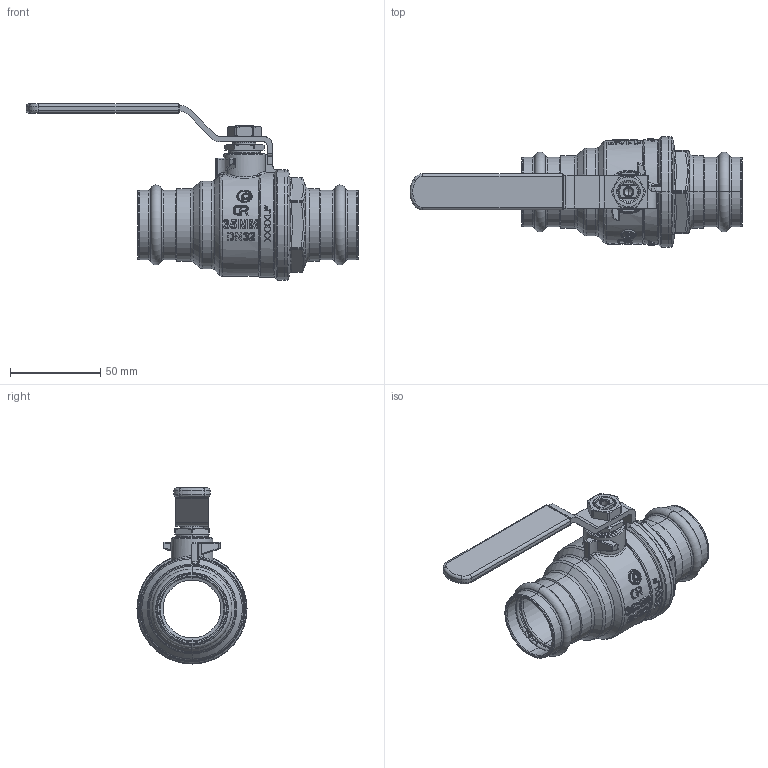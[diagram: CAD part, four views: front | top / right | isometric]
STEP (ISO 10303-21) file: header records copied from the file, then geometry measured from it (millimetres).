
FILE_DESCRIPTION(('Open CASCADE Model'),'2;1');
FILE_NAME('Open CASCADE Shape Model','2021-11-22T13:17:57',('Author'),( 'Open CASCADE'),'Open CASCADE STEP processor 7.3','Open CASCADE 7.3' ,'Unknown');
FILE_SCHEMA(('AUTOMOTIVE_DESIGN { 1 0 10303 214 1 1 1 1 }'));
Length unit declared in the file: millimetre
Products named in the file (22): Open CASCADE STEP translator 7.3 1; Open CASCADE STEP translator 7.3 1.1; Open CASCADE STEP translator 7.3 1.2; Open CASCADE STEP translator 7.3 1.3; Open CASCADE STEP translator 7.3 1.4; Open CASCADE STEP translator 7.3 1.5; Open CASCADE STEP translator 7.3 1.6; Open CASCADE STEP translator 7.3 1.7; Open CASCADE STEP translator 7.3 1.8; Open CASCADE STEP translator 7.3 1.9; Open CASCADE STEP translator 7.3 1.10; Open CASCADE STEP translator 7.3 1.11; Open CASCADE STEP translator 7.3 1.12; Open CASCADE STEP translator 7.3 1.13; Open CASCADE STEP translator 7.3 1.14; Open CASCADE STEP translator 7.3 1.15; Open CASCADE STEP translator 7.3 1.16; Open CASCADE STEP translator 7.3 1.17; Open CASCADE STEP translator 7.3 1.18; Open CASCADE STEP translator 7.3 1.19; Open CASCADE STEP translator 7.3 1.20; Open CASCADE STEP translator 7.3 1.21
Assembly tree (21 placements, depth 2):
  Open CASCADE STEP translator 7.3 1
    Open CASCADE STEP translator 7.3 1.1
    Open CASCADE STEP translator 7.3 1.2
    Open CASCADE STEP translator 7.3 1.3
    Open CASCADE STEP translator 7.3 1.4
    Open CASCADE STEP translator 7.3 1.5
    Open CASCADE STEP translator 7.3 1.6
    Open CASCADE STEP translator 7.3 1.7
    Open CASCADE STEP translator 7.3 1.8
    Open CASCADE STEP translator 7.3 1.9
    Open CASCADE STEP translator 7.3 1.10
    Open CASCADE STEP translator 7.3 1.11
    Open CASCADE STEP translator 7.3 1.12
    Open CASCADE STEP translator 7.3 1.13
    Open CASCADE STEP translator 7.3 1.14
    Open CASCADE STEP translator 7.3 1.15
    Open CASCADE STEP translator 7.3 1.16
    Open CASCADE STEP translator 7.3 1.17
    Open CASCADE STEP translator 7.3 1.18
    Open CASCADE STEP translator 7.3 1.19
    Open CASCADE STEP translator 7.3 1.20
    Open CASCADE STEP translator 7.3 1.21
Bounding box: 183.9 x 61 x 97.5 mm (x, y, z)
Volume: 118939.1 mm3; surface area: 86316.2 mm2
Topology: 15 solids, 21 shells, 1484 faces, 3621 edges, 2215 vertices
Faces by surface type: bspline 719, cylinder 265, plane 220, torus 123, cone 120, revolution 16, sphere 14, extrusion 7
Entity records: 221037 total; most frequent: CARTESIAN_POINT 159798, DIRECTION 7475, ORIENTED_EDGE 7206, PCURVE 7206, DEFINITIONAL_REPRESENTATION 7206, B_SPLINE_CURVE_WITH_KNOTS 5893, EDGE_CURVE 3616, SURFACE_CURVE 3616
